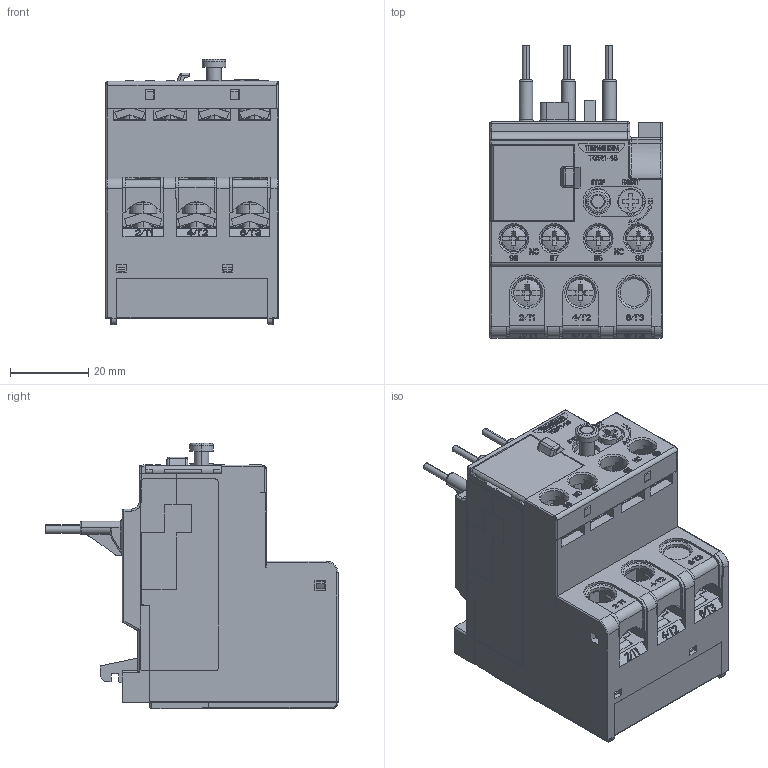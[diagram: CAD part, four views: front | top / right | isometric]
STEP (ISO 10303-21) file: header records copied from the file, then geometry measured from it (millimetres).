
FILE_DESCRIPTION (( 'STEP AP214' ), '1' );
FILE_NAME ('TGR1-18.STEP', '2025-12-22T07:50:05', ( '' ), ( '' ), 'SwSTEP 2.0', 'SolidWorks 2024', '' );
FILE_SCHEMA (( 'AUTOMOTIVE_DESIGN' ));
Length unit declared in the file: millimetre
Products named in the file (4): 2TZD_331_1004_13_SW0003_2.stp; TGR1-18; TGR1-18.stp; 2TZD_331_1004_13_SW0003_1.stp
Assembly tree (3 placements, depth 3):
  TGR1-18
    TGR1-18.stp
      2TZD_331_1004_13_SW0003_1.stp
      2TZD_331_1004_13_SW0003_2.stp
Bounding box: 44.1 x 74.5 x 67.65 mm (x, y, z)
Volume: 93503.5 mm3; surface area: 43014.3 mm2
Topology: 1 solids, 2 shells, 4190 faces, 11993 edges, 7798 vertices
Faces by surface type: plane 3238, cylinder 596, bspline 162, sphere 75, torus 63, cone 56
Entity records: 142679 total; most frequent: CARTESIAN_POINT 36481, ORIENTED_EDGE 23908, DIRECTION 19234, EDGE_CURVE 11954, VECTOR 9120, LINE 9120, VERTEX_POINT 7796, AXIS2_PLACEMENT_3D 5057
